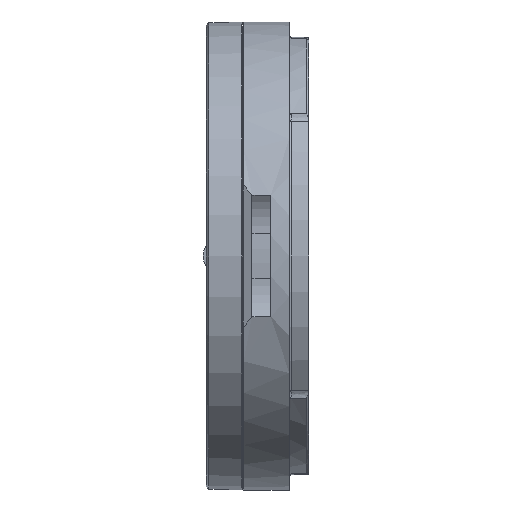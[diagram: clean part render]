
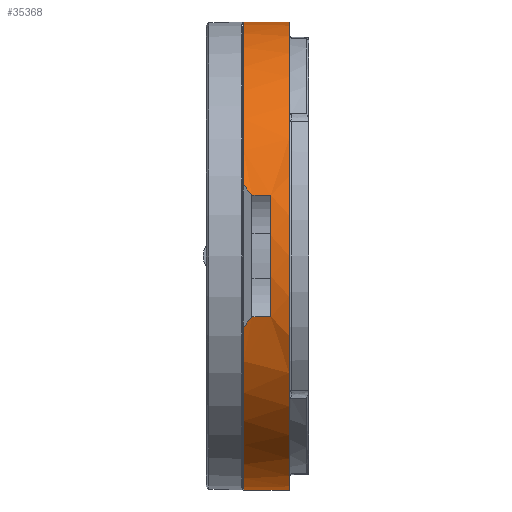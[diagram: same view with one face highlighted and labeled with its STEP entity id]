
A CAD part, left-side view. The second image highlights one B-rep face of the part: STEP entity #35368.
In plain terms, the highlighted cylindrical face has radius 18.5 mm (diameter 37 mm), a partial arc.
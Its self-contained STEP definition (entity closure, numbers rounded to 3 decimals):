
#433 = CARTESIAN_POINT ( 'NONE',  ( -5.64, 5.15, -17.619 ) ) ;
#528 = EDGE_CURVE ( 'NONE', #25208, #31925, #27922, .T. ) ;
#2362 = DIRECTION ( 'NONE',  ( -1., 0., 0. ) ) ;
#2650 =( BOUNDED_CURVE ( )  B_SPLINE_CURVE ( 3, ( #3276, #32421, #26394, #8465 ),
 .UNSPECIFIED., .F., .T. ) 
 B_SPLINE_CURVE_WITH_KNOTS ( ( 4, 4 ),
 ( 2.832, 2.88 ),
 .UNSPECIFIED. ) 
 CURVE ( )  GEOMETRIC_REPRESENTATION_ITEM ( )  RATIONAL_B_SPLINE_CURVE ( ( 1., 1., 1., 1. ) ) 
 REPRESENTATION_ITEM ( '' )  );
#2839 = EDGE_CURVE ( 'NONE', #3950, #31903, #10698, .T. ) ;
#3031 = DIRECTION ( 'NONE',  ( 0., 1., 0. ) ) ;
#3276 = CARTESIAN_POINT ( 'NONE',  ( -5.64, 5.15, -17.619 ) ) ;
#3824 = ORIENTED_EDGE ( 'NONE', *, *, #9508, .F. ) ;
#3950 = VERTEX_POINT ( 'NONE', #24585 ) ;
#5070 = CARTESIAN_POINT ( 'NONE',  ( 0., 3., 0. ) ) ;
#5151 = ORIENTED_EDGE ( 'NONE', *, *, #32695, .T. ) ;
#5347 = DIRECTION ( 'NONE',  ( -1., 0., 0. ) ) ;
#5835 = AXIS2_PLACEMENT_3D ( 'NONE', #13713, #28399, #31889 ) ;
#5922 = VERTEX_POINT ( 'NONE', #7907 ) ;
#6599 = CARTESIAN_POINT ( 'NONE',  ( -4.788, 4.5, -17.87 ) ) ;
#6985 = CARTESIAN_POINT ( 'NONE',  ( 4.788, 4.5, -17.87 ) ) ;
#7004 = EDGE_CURVE ( 'NONE', #25771, #5922, #27105, .T. ) ;
#7114 = FACE_OUTER_BOUND ( 'NONE', #7801, .T. ) ;
#7801 = EDGE_LOOP ( 'NONE', ( #34928, #5151, #13474, #10902, #37027, #3824, #31337, #18482, #34550, #23990 ) ) ;
#7907 = CARTESIAN_POINT ( 'NONE',  ( 4.788, 3., -17.87 ) ) ;
#8374 = AXIS2_PLACEMENT_3D ( 'NONE', #18732, #21805, #5347 ) ;
#8465 = CARTESIAN_POINT ( 'NONE',  ( -4.788, 4.5, -17.87 ) ) ;
#9508 = EDGE_CURVE ( 'NONE', #25771, #27340, #31987, .T. ) ;
#9751 = CARTESIAN_POINT ( 'NONE',  ( 5.64, 5.15, -17.619 ) ) ;
#10555 = VECTOR ( 'NONE', #3031, 1000. ) ;
#10698 = LINE ( 'NONE', #28471, #36317 ) ;
#10902 = ORIENTED_EDGE ( 'NONE', *, *, #35546, .T. ) ;
#11676 = DIRECTION ( 'NONE',  ( 1., 0., 0. ) ) ;
#12008 = VECTOR ( 'NONE', #36858, 1000. ) ;
#12628 = CARTESIAN_POINT ( 'NONE',  ( 5.358, 4.916, -17.71 ) ) ;
#13474 = ORIENTED_EDGE ( 'NONE', *, *, #528, .T. ) ;
#13713 = CARTESIAN_POINT ( 'NONE',  ( 0., 1.55, 0. ) ) ;
#14728 = CARTESIAN_POINT ( 'NONE',  ( 18.5, 5.15, 0. ) ) ;
#15548 = LINE ( 'NONE', #30612, #29308 ) ;
#16832 = VERTEX_POINT ( 'NONE', #6985 ) ;
#18018 = VERTEX_POINT ( 'NONE', #31852 ) ;
#18356 = CARTESIAN_POINT ( 'NONE',  ( -18.5, 51.032, 0. ) ) ;
#18426 =( BOUNDED_CURVE ( )  B_SPLINE_CURVE ( 3, ( #30037, #21336, #12628, #9751 ),
 .UNSPECIFIED., .F., .T. ) 
 B_SPLINE_CURVE_WITH_KNOTS ( ( 4, 4 ),
 ( 3.403, 3.451 ),
 .UNSPECIFIED. ) 
 CURVE ( )  GEOMETRIC_REPRESENTATION_ITEM ( )  RATIONAL_B_SPLINE_CURVE ( ( 1., 1., 1., 1. ) ) 
 REPRESENTATION_ITEM ( '' )  );
#18482 = ORIENTED_EDGE ( 'NONE', *, *, #34523, .T. ) ;
#18732 = CARTESIAN_POINT ( 'NONE',  ( 0., 51.032, 0. ) ) ;
#18876 = CYLINDRICAL_SURFACE ( 'NONE', #8374, 18.5 ) ;
#19433 = DIRECTION ( 'NONE',  ( 1., 0., 0. ) ) ;
#20052 = CIRCLE ( 'NONE', #5835, 18.5 ) ;
#20960 = CARTESIAN_POINT ( 'NONE',  ( 0., 5.15, 0. ) ) ;
#21319 = CARTESIAN_POINT ( 'NONE',  ( -18.5, 5.15, 0. ) ) ;
#21336 = CARTESIAN_POINT ( 'NONE',  ( 5.074, 4.699, -17.793 ) ) ;
#21805 = DIRECTION ( 'NONE',  ( 0., 1., 0. ) ) ;
#22197 = EDGE_CURVE ( 'NONE', #18018, #31903, #34014, .T. ) ;
#23142 = CIRCLE ( 'NONE', #34308, 18.5 ) ;
#23458 = DIRECTION ( 'NONE',  ( 0., -1., 0. ) ) ;
#23990 = ORIENTED_EDGE ( 'NONE', *, *, #22197, .T. ) ;
#24585 = CARTESIAN_POINT ( 'NONE',  ( 18.5, 1.55, 0. ) ) ;
#25208 = VERTEX_POINT ( 'NONE', #27200 ) ;
#25771 = VERTEX_POINT ( 'NONE', #25812 ) ;
#25812 = CARTESIAN_POINT ( 'NONE',  ( -4.788, 3., -17.87 ) ) ;
#26394 = CARTESIAN_POINT ( 'NONE',  ( -5.074, 4.699, -17.793 ) ) ;
#27105 = CIRCLE ( 'NONE', #32068, 18.5 ) ;
#27200 = CARTESIAN_POINT ( 'NONE',  ( -18.5, 1.55, 0. ) ) ;
#27340 = VERTEX_POINT ( 'NONE', #6599 ) ;
#27922 = LINE ( 'NONE', #18356, #12008 ) ;
#28399 = DIRECTION ( 'NONE',  ( 0., 1., 0. ) ) ;
#28471 = CARTESIAN_POINT ( 'NONE',  ( 18.5, 51.032, 0. ) ) ;
#29308 = VECTOR ( 'NONE', #36633, 1000. ) ;
#30037 = CARTESIAN_POINT ( 'NONE',  ( 4.788, 4.5, -17.87 ) ) ;
#30612 = CARTESIAN_POINT ( 'NONE',  ( 4.788, 3., -17.87 ) ) ;
#30808 = EDGE_CURVE ( 'NONE', #16832, #18018, #18426, .T. ) ;
#30951 = AXIS2_PLACEMENT_3D ( 'NONE', #37787, #31594, #19433 ) ;
#31094 = VERTEX_POINT ( 'NONE', #433 ) ;
#31337 = ORIENTED_EDGE ( 'NONE', *, *, #7004, .T. ) ;
#31594 = DIRECTION ( 'NONE',  ( 0., -1., 0. ) ) ;
#31852 = CARTESIAN_POINT ( 'NONE',  ( 5.64, 5.15, -17.619 ) ) ;
#31889 = DIRECTION ( 'NONE',  ( -1., 0., 0. ) ) ;
#31903 = VERTEX_POINT ( 'NONE', #14728 ) ;
#31925 = VERTEX_POINT ( 'NONE', #21319 ) ;
#31987 = LINE ( 'NONE', #37980, #10555 ) ;
#32068 = AXIS2_PLACEMENT_3D ( 'NONE', #5070, #34607, #2362 ) ;
#32421 = CARTESIAN_POINT ( 'NONE',  ( -5.358, 4.916, -17.71 ) ) ;
#32695 = EDGE_CURVE ( 'NONE', #3950, #25208, #20052, .T. ) ;
#33309 = EDGE_CURVE ( 'NONE', #31094, #27340, #2650, .T. ) ;
#34014 = CIRCLE ( 'NONE', #30951, 18.5 ) ;
#34308 = AXIS2_PLACEMENT_3D ( 'NONE', #20960, #23458, #11676 ) ;
#34523 = EDGE_CURVE ( 'NONE', #5922, #16832, #15548, .T. ) ;
#34550 = ORIENTED_EDGE ( 'NONE', *, *, #30808, .T. ) ;
#34607 = DIRECTION ( 'NONE',  ( 0., -1., 0. ) ) ;
#34928 = ORIENTED_EDGE ( 'NONE', *, *, #2839, .F. ) ;
#35368 = ADVANCED_FACE ( 'NONE', ( #7114 ), #18876, .T. ) ;
#35546 = EDGE_CURVE ( 'NONE', #31925, #31094, #23142, .T. ) ;
#36317 = VECTOR ( 'NONE', #37216, 1000. ) ;
#36633 = DIRECTION ( 'NONE',  ( 0., 1., 0. ) ) ;
#36858 = DIRECTION ( 'NONE',  ( 0., 1., 0. ) ) ;
#37027 = ORIENTED_EDGE ( 'NONE', *, *, #33309, .T. ) ;
#37216 = DIRECTION ( 'NONE',  ( 0., 1., 0. ) ) ;
#37787 = CARTESIAN_POINT ( 'NONE',  ( 0., 5.15, 0. ) ) ;
#37980 = CARTESIAN_POINT ( 'NONE',  ( -4.788, 3., -17.87 ) ) ;
